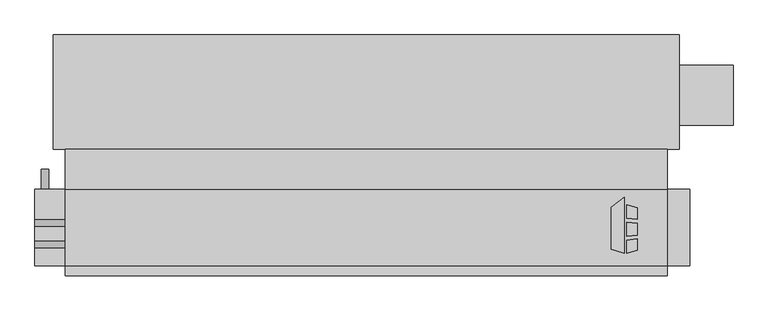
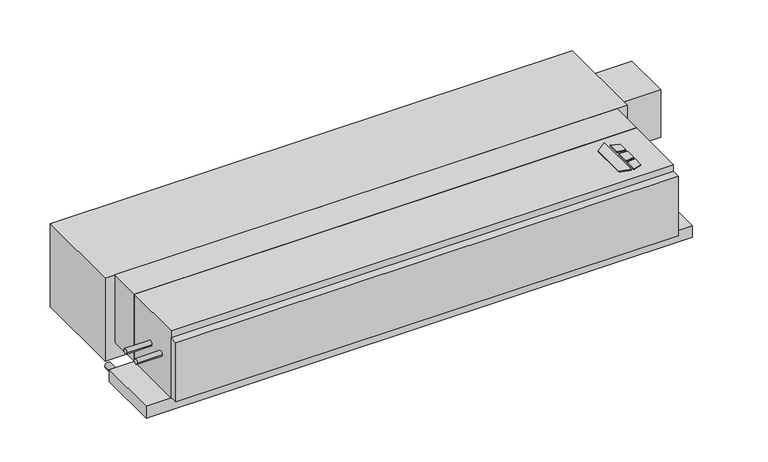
"""IFC4 building model written with IfcOpenShell, lengths in millimetres: proxy geometry, Concealed_Horizontal_Fan_Coil_Unit_With_Plenum_-_CPY_-_IEC_-_2-Pipe_Cool-EHeat_LH_2022 : Size 12 - 277v/60Hz/1Ph - 4 Row 10.0kW."""

from ifc_helpers import new_model, si_unit, point, frame, frame_2d, origin, origin_with_axes, place, context, project, spatial, polyline, circle_curve, trimmed, segment, composite_curve, outline, extrude, source, transform, mapped, element, save


def mechanical_equipment_cb384b61(model_context):
    return source(origin(), model_context, "Body", "SweptSolid", [
        extrude(outline(polyline([(772.8019761, -186.6953476), (805.3602728, -161.2580184), (805.3602728, -303.2125), (772.8019761, -292.9929201), (772.8019761, -186.6953476)])), origin_with_axes(), (0.0, 0.0, 1.0), 3.175),
        extrude(outline(polyline([(812.1186058, -214.567352), (812.1186058, -180.0874379), (838.2, -188.2740115), (838.2, -217.7697446), (812.1186058, -214.567352)])), origin_with_axes(), (0.0, 0.0, 1.0), 3.175),
        extrude(outline(polyline([(838.2, -296.2240115), (812.1186058, -303.2125), (812.1186058, -269.9911996), (838.2, -266.4493564), (838.2, -296.2240115)])), origin_with_axes(), (0.0, 0.0, 1.0), 3.175),
        extrude(outline(polyline([(838.2, -226.8513277), (838.2, -258.101483), (812.1186058, -260.842748), (812.1186058, -224.9850378), (838.2, -226.8513277)])), origin_with_axes(), (0.0, 0.0, 1.0), 3.175),
        extrude(outline(composite_curve([segment(trimmed(circle_curve(frame_2d((-280.9875, -104.775)), 7.9375), [point((-288.925, -104.775))], [point((-273.05, -104.775))], False, "CARTESIAN"), True, "CONTINUOUS"), segment(trimmed(circle_curve(frame_2d((-280.9875, -104.775)), 7.9375), [point((-273.05, -104.775))], [point((-288.925, -104.775))], False, "CARTESIAN"), True, "CONTINUOUS")], self_intersect=False)), frame((-685.8, 0.0, 0.0), z_axis=(1.0, 0.0, 0.0), x_axis=(0.0, 1.0, 0.0)), (0.0, 0.0, 1.0), 76.2),
        extrude(outline(composite_curve([segment(trimmed(circle_curve(frame_2d((-227.0125, -104.775)), 7.9375), [point((-234.95, -104.775))], [point((-219.075, -104.775))], False, "CARTESIAN"), True, "CONTINUOUS"), segment(trimmed(circle_curve(frame_2d((-227.0125, -104.775)), 7.9375), [point((-219.075, -104.775))], [point((-234.95, -104.775))], False, "CARTESIAN"), True, "CONTINUOUS")], self_intersect=False)), frame((-685.8, 0.0, 0.0), z_axis=(1.0, 0.0, 0.0), x_axis=(0.0, 1.0, 0.0)), (0.0, 0.0, 1.0), 76.2),
        extrude(outline(composite_curve([segment(trimmed(circle_curve(frame_2d((-241.3, -660.4)), 9.525), [point((-241.3, -669.925))], [point((-241.3, -650.875))], False, "CARTESIAN"), True, "CONTINUOUS"), segment(trimmed(circle_curve(frame_2d((-241.3, -660.4)), 9.525), [point((-241.3, -650.875))], [point((-241.3, -669.925))], False, "CARTESIAN"), True, "CONTINUOUS")], self_intersect=False)), frame((0.0, -141.2875, 0.0), z_axis=(0.0, 1.0, 0.0), x_axis=(0.0, 0.0, 1.0)), (0.0, 0.0, 1.0), 50.8),
        extrude(outline(polyline([(-609.6, -39.6875), (914.4, -39.6875), (914.4, -141.2875), (-609.6, -141.2875), (-609.6, -39.6875)])), frame((0.0, 0.0, -215.9), z_axis=(0.0, 0.0, 1.0), x_axis=(1.0, 0.0, 0.0)), (0.0, 0.0, 1.0), 215.9),
        extrude(outline(polyline([(914.4, -360.3625), (-609.6, -360.3625), (-609.6, -334.9625), (914.4, -334.9625), (914.4, -360.3625)])), frame((0.0, 0.0, -212.725), z_axis=(0.0, 0.0, 1.0), x_axis=(1.0, 0.0, 0.0)), (0.0, 0.0, 1.0), 190.5),
        extrude(outline(polyline([(1081.0875, 173.0375), (1081.0875, 20.6375), (944.5625, 20.6375), (944.5625, 173.0375), (1081.0875, 173.0375)])), frame((0.0, 0.0, -187.325), z_axis=(0.0, 0.0, 1.0), x_axis=(1.0, 0.0, 0.0)), (0.0, 0.0, 1.0), 152.4),
        extrude(outline(polyline([(-639.7625, 249.2375), (944.5625, 249.2375), (944.5625, -39.6875), (-639.7625, -39.6875), (-639.7625, 249.2375)])), frame((0.0, 0.0, -266.7), z_axis=(0.0, 0.0, 1.0), x_axis=(1.0, 0.0, 0.0)), (0.0, 0.0, 1.0), 266.7),
        extrude(outline(polyline([(914.4, -141.2875), (914.4, -334.9625), (-609.6, -334.9625), (-609.6, -141.2875), (914.4, -141.2875)])), frame((0.0, 0.0, -215.9), z_axis=(0.0, 0.0, 1.0), x_axis=(1.0, 0.0, 0.0)), (0.0, 0.0, 1.0), 215.9),
        extrude(outline(polyline([(971.55, -141.2875), (971.55, -334.9625), (-685.8, -334.9625), (-685.8, -141.2875), (971.55, -141.2875)])), frame((0.0, 0.0, -254.0), z_axis=(0.0, 0.0, 1.0), x_axis=(1.0, 0.0, 0.0)), (0.0, 0.0, 1.0), 38.1),
    ])


if __name__ == "__main__":
    model = new_model("IFC4")
    model_context = context("Model", 3, world=origin())
    ifc_project = project(units=[si_unit("LENGTHUNIT", "METRE", prefix="MILLI")], contexts=[model_context])
    site = spatial("IfcSite", under=ifc_project)
    building = spatial("IfcBuilding", under=site)
    placement = place(None, origin())
    mechanical_equipment_shape = mechanical_equipment_cb384b61(model_context)
    element("IfcBuildingElementProxy", 1, Name="Concealed_Horizontal_Fan_Coil_Unit_With_Plenum_-_CPY_-_IEC_-_2-Pipe_Cool-EHeat_LH_2022 : Size 12 - 277v/60Hz/1Ph - 4 Row 10.0kW", ObjectType="Concealed_Horizontal_Fan_Coil_Unit_With_Plenum_-_CPY_-_IEC_-_2-Pipe_Cool-EHeat_LH_2022 : Size 12 - 277v/60Hz/1Ph - 4 Row 10.0kW", at=placement, inside=building, context=model_context, shape_type="MappedRepresentation", body=[
        mapped(mechanical_equipment_shape, transform((0.0, 0.0, 0.0), x_axis=(1.0, 0.0, 0.0), y_axis=(0.0, 1.0, 0.0), z_axis=(0.0, 0.0, 1.0))),
    ])
    save(model, "model.ifc")
